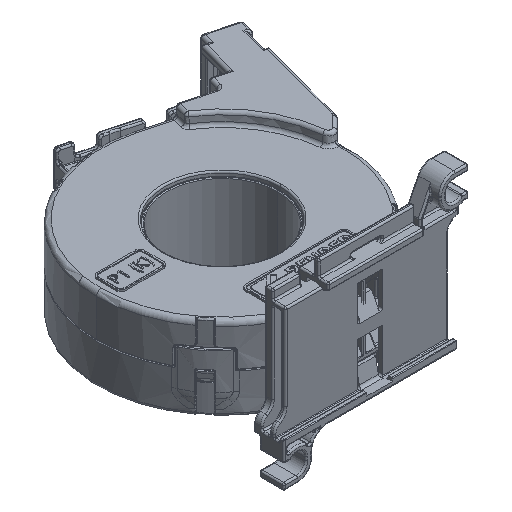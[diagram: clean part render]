
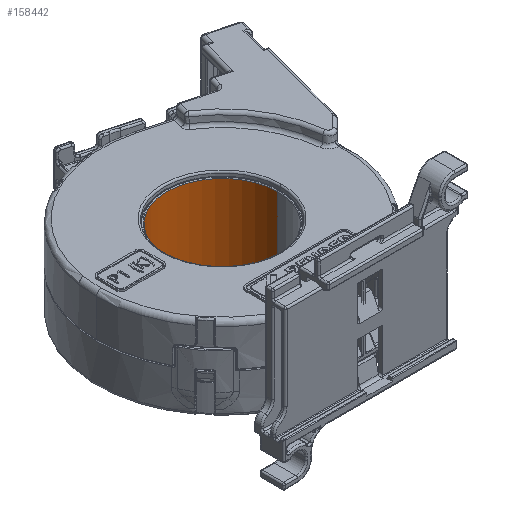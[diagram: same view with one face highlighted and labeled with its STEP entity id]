
A CAD part, isometric view. The second image highlights one B-rep face of the part: STEP entity #158442.
In plain terms, the highlighted cylindrical face has radius 17.5 mm (diameter 35 mm), a partial arc.
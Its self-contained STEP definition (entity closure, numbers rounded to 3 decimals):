
#11054 = VERTEX_POINT ( 'NONE', #60392 ) ;
#17734 = EDGE_LOOP ( 'NONE', ( #49829, #25628, #82128, #100453 ) ) ;
#21542 = DIRECTION ( 'NONE',  ( 0., 0., -1. ) ) ;
#21867 = CARTESIAN_POINT ( 'NONE',  ( 17.5, 48.15, 12.05 ) ) ;
#25628 = ORIENTED_EDGE ( 'NONE', *, *, #153384, .T. ) ;
#26368 = EDGE_CURVE ( 'NONE', #102752, #124594, #53188, .T. ) ;
#29189 = AXIS2_PLACEMENT_3D ( 'NONE', #100343, #21542, #141555 ) ;
#41660 = CARTESIAN_POINT ( 'NONE',  ( -17.5, 48.15, 12.05 ) ) ;
#43170 = CARTESIAN_POINT ( 'NONE',  ( 17.5, 48.15, 12.3 ) ) ;
#45575 = EDGE_CURVE ( 'NONE', #124594, #11054, #66986, .T. ) ;
#47854 = CYLINDRICAL_SURFACE ( 'NONE', #29189, 17.5 ) ;
#49829 = ORIENTED_EDGE ( 'NONE', *, *, #157320, .F. ) ;
#51830 = DIRECTION ( 'NONE',  ( 1., 0., 0. ) ) ;
#53188 = LINE ( 'NONE', #152695, #121467 ) ;
#54751 = DIRECTION ( 'NONE',  ( 0., 0., 1. ) ) ;
#60392 = CARTESIAN_POINT ( 'NONE',  ( 17.5, 48.15, -12.3 ) ) ;
#61575 = AXIS2_PLACEMENT_3D ( 'NONE', #137031, #54751, #108139 ) ;
#66986 = CIRCLE ( 'NONE', #89314, 17.5 ) ;
#68791 = VERTEX_POINT ( 'NONE', #21867 ) ;
#77263 = DIRECTION ( 'NONE',  ( 0., 0., -1. ) ) ;
#82128 = ORIENTED_EDGE ( 'NONE', *, *, #26368, .T. ) ;
#89314 = AXIS2_PLACEMENT_3D ( 'NONE', #90372, #77263, #51830 ) ;
#90372 = CARTESIAN_POINT ( 'NONE',  ( 0., 48.15, -12.3 ) ) ;
#90703 = LINE ( 'NONE', #43170, #172006 ) ;
#100343 = CARTESIAN_POINT ( 'NONE',  ( 0., 48.15, 12.3 ) ) ;
#100453 = ORIENTED_EDGE ( 'NONE', *, *, #45575, .T. ) ;
#102752 = VERTEX_POINT ( 'NONE', #41660 ) ;
#108139 = DIRECTION ( 'NONE',  ( 1., 0., 0. ) ) ;
#110540 = DIRECTION ( 'NONE',  ( 0., 0., -1. ) ) ;
#116986 = FACE_OUTER_BOUND ( 'NONE', #17734, .T. ) ;
#121467 = VECTOR ( 'NONE', #146903, 1000. ) ;
#124594 = VERTEX_POINT ( 'NONE', #125294 ) ;
#125294 = CARTESIAN_POINT ( 'NONE',  ( -17.5, 48.15, -12.3 ) ) ;
#137031 = CARTESIAN_POINT ( 'NONE',  ( 0., 48.15, 12.05 ) ) ;
#137108 = CIRCLE ( 'NONE', #61575, 17.5 ) ;
#141555 = DIRECTION ( 'NONE',  ( -1., 0., 0. ) ) ;
#146903 = DIRECTION ( 'NONE',  ( 0., 0., -1. ) ) ;
#152695 = CARTESIAN_POINT ( 'NONE',  ( -17.5, 48.15, 12.3 ) ) ;
#153384 = EDGE_CURVE ( 'NONE', #68791, #102752, #137108, .T. ) ;
#157320 = EDGE_CURVE ( 'NONE', #68791, #11054, #90703, .T. ) ;
#158442 = ADVANCED_FACE ( 'NONE', ( #116986 ), #47854, .F. ) ;
#172006 = VECTOR ( 'NONE', #110540, 1000. ) ;
